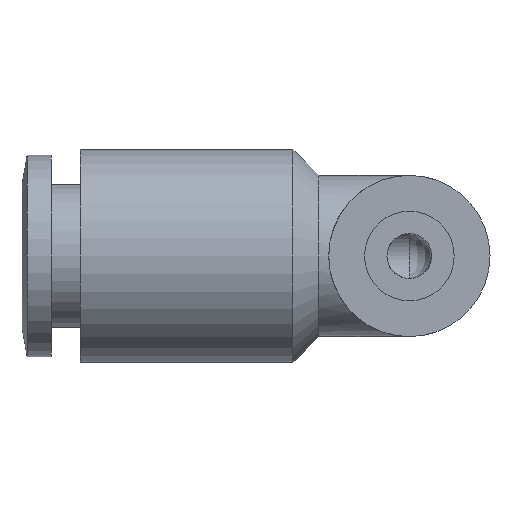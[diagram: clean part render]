
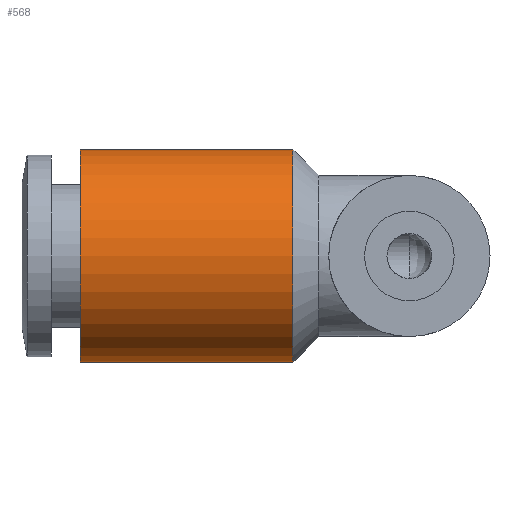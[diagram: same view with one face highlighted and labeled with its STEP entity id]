
A CAD part, left-side view. The second image highlights one B-rep face of the part: STEP entity #568.
In plain terms, the highlighted cylindrical face has radius 4.75 mm (diameter 9.5 mm), a full revolution.
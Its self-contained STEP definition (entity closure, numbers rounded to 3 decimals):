
#534=CARTESIAN_POINT('',(-4.75,5.2,0.0));
#535=VERTEX_POINT('',#534);
#536=CARTESIAN_POINT('',(0.0,5.2,0.0));
#537=DIRECTION('',(0.0,1.0,0.0));
#538=DIRECTION('',(-1.0,0.0,0.0));
#539=AXIS2_PLACEMENT_3D('',#536,#537,#538);
#540=CIRCLE('',#539,4.75);
#541=EDGE_CURVE('',#535,#535,#540,.T.);
#549=CARTESIAN_POINT('',(0.0,9.95,0.0));
#550=DIRECTION('',(0.0,1.0,0.0));
#551=DIRECTION('',(-1.0,0.0,0.0));
#552=AXIS2_PLACEMENT_3D('',#549,#550,#551);
#553=CYLINDRICAL_SURFACE('',#552,4.75);
#554=CARTESIAN_POINT('',(-4.75,14.7,0.0));
#555=VERTEX_POINT('',#554);
#556=CARTESIAN_POINT('',(0.0,14.7,0.0));
#557=DIRECTION('',(0.0,1.0,0.0));
#558=DIRECTION('',(-1.0,0.0,0.0));
#559=AXIS2_PLACEMENT_3D('',#556,#557,#558);
#560=CIRCLE('',#559,4.75);
#561=EDGE_CURVE('',#555,#555,#560,.T.);
#562=ORIENTED_EDGE('',*,*,#561,.F.);
#563=EDGE_LOOP('',(#562));
#564=FACE_OUTER_BOUND('',#563,.T.);
#565=ORIENTED_EDGE('',*,*,#541,.T.);
#566=EDGE_LOOP('',(#565));
#567=FACE_BOUND('',#566,.T.);
#568=ADVANCED_FACE('',(#564,#567),#553,.T.);
